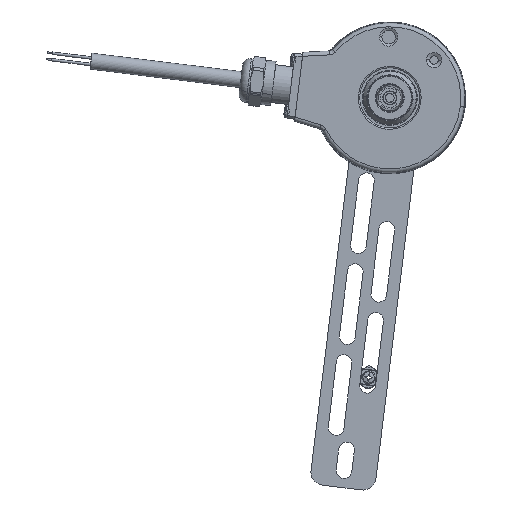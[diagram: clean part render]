
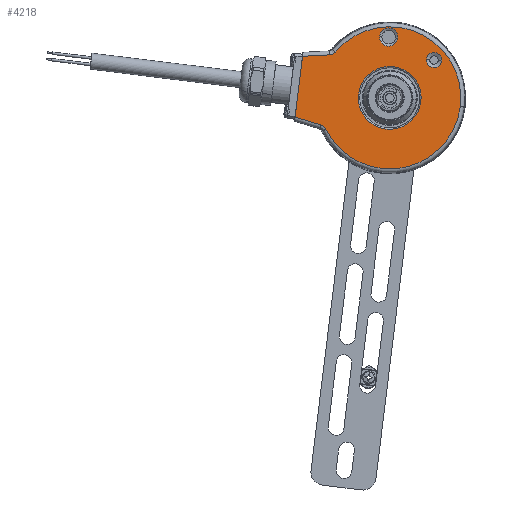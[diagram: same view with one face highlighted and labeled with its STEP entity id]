
A CAD part, left-side view. The second image highlights one B-rep face of the part: STEP entity #4218.
In plain terms, the highlighted planar face has unit normal (-1, 0, 0).
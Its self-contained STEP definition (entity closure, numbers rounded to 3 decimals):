
#4076 = VERTEX_POINT ( 'NONE', #8557 ) ;
#4080 = VERTEX_POINT ( 'NONE', #8546 ) ;
#4124 = EDGE_CURVE ( 'NONE', #4142, #8396, #8723, .T. ) ;
#4133 = EDGE_CURVE ( 'NONE', #8448, #8397, #8735, .T. ) ;
#4136 = EDGE_CURVE ( 'NONE', #4076, #4080, #8734, .T. ) ;
#4142 = VERTEX_POINT ( 'NONE', #8929 ) ;
#4144 = EDGE_CURVE ( 'NONE', #4142, #4080, #8927, .T. ) ;
#4146 = EDGE_LOOP ( 'NONE', ( #4147, #4148 ) ) ;
#4147 = ORIENTED_EDGE ( 'NONE', *, *, #8357, .T. ) ;
#4148 = ORIENTED_EDGE ( 'NONE', *, *, #4170, .T. ) ;
#4149 = EDGE_LOOP ( 'NONE', ( #4150, #4203 ) ) ;
#4150 = ORIENTED_EDGE ( 'NONE', *, *, #8404, .T. ) ;
#4170 = EDGE_CURVE ( 'NONE', #15737, #8358, #9220, .T. ) ;
#4175 = EDGE_CURVE ( 'NONE', #8402, #8405, #9249, .T. ) ;
#4203 = ORIENTED_EDGE ( 'NONE', *, *, #4175, .T. ) ;
#4204 = EDGE_LOOP ( 'NONE', ( #4205, #4206, #4207, #4209, #4210, #4211, #4212 ) ) ;
#4205 = ORIENTED_EDGE ( 'NONE', *, *, #4133, .F. ) ;
#4206 = ORIENTED_EDGE ( 'NONE', *, *, #8507, .T. ) ;
#4207 = ORIENTED_EDGE ( 'NONE', *, *, #4208, .F. ) ;
#4208 = EDGE_CURVE ( 'NONE', #4076, #8455, #9345, .T. ) ;
#4209 = ORIENTED_EDGE ( 'NONE', *, *, #4136, .T. ) ;
#4210 = ORIENTED_EDGE ( 'NONE', *, *, #4144, .F. ) ;
#4211 = ORIENTED_EDGE ( 'NONE', *, *, #4124, .T. ) ;
#4212 = ORIENTED_EDGE ( 'NONE', *, *, #8395, .T. ) ;
#4217 = EDGE_CURVE ( 'NONE', #8387, #8390, #9320, .T. ) ;
#4218 = ADVANCED_FACE ( 'NONE', ( #9373, #9372, #9371, #9370 ), #9355, .F. ) ;
#4219 = EDGE_LOOP ( 'NONE', ( #4220, #4221 ) ) ;
#4220 = ORIENTED_EDGE ( 'NONE', *, *, #8389, .T. ) ;
#4221 = ORIENTED_EDGE ( 'NONE', *, *, #4217, .T. ) ;
#8357 = EDGE_CURVE ( 'NONE', #8358, #15737, #14919, .T. ) ;
#8358 = VERTEX_POINT ( 'NONE', #14910 ) ;
#8387 = VERTEX_POINT ( 'NONE', #15014 ) ;
#8389 = EDGE_CURVE ( 'NONE', #8390, #8387, #15013, .T. ) ;
#8390 = VERTEX_POINT ( 'NONE', #15008 ) ;
#8395 = EDGE_CURVE ( 'NONE', #8396, #8397, #15007, .T. ) ;
#8396 = VERTEX_POINT ( 'NONE', #15067 ) ;
#8397 = VERTEX_POINT ( 'NONE', #15066 ) ;
#8402 = VERTEX_POINT ( 'NONE', #15055 ) ;
#8404 = EDGE_CURVE ( 'NONE', #8405, #8402, #15054, .T. ) ;
#8405 = VERTEX_POINT ( 'NONE', #15049 ) ;
#8448 = VERTEX_POINT ( 'NONE', #15187 ) ;
#8455 = VERTEX_POINT ( 'NONE', #15180 ) ;
#8507 = EDGE_CURVE ( 'NONE', #8448, #8455, #15401, .T. ) ;
#8546 = CARTESIAN_POINT ( 'NONE',  ( -19., 26.213, -10.418 ) ) ;
#8557 = CARTESIAN_POINT ( 'NONE',  ( -19., 36.168, -7.374 ) ) ;
#8714 = DIRECTION ( 'NONE',  ( 0., -0.993, -0.122 ) ) ;
#8715 = DIRECTION ( 'NONE',  ( -1., 0., 0. ) ) ;
#8716 = CARTESIAN_POINT ( 'NONE',  ( -19., 0., 0. ) ) ;
#8717 = AXIS2_PLACEMENT_3D ( 'NONE', #8716, #8715, #8714 ) ;
#8723 = CIRCLE ( 'NONE', #8717, 27.173 ) ;
#8729 = CARTESIAN_POINT ( 'NONE',  ( -19., 22.914, 16.45 ) ) ;
#8730 = DIRECTION ( 'NONE',  ( 0., -0.956, -0.292 ) ) ;
#8731 = VECTOR ( 'NONE', #8730, 1000. ) ;
#8732 = CARTESIAN_POINT ( 'NONE',  ( -19., 25.556, -10.618 ) ) ;
#8734 = LINE ( 'NONE', #8732, #8731 ) ;
#8735 = B_SPLINE_CURVE_WITH_KNOTS ( 'NONE', 3,
 ( #8729, #8895, #8894, #8893, #8892, #8891, #8890, #8889, #8888, #8887 ),
 .UNSPECIFIED., .F., .F.,
 ( 4, 2, 2, 2, 4 ),
 ( 0., 0.001, 0.001, 0.002, 0.002 ),
 .UNSPECIFIED. ) ;
#8887 = CARTESIAN_POINT ( 'NONE',  ( -19., 20.777, 17.512 ) ) ;
#8888 = CARTESIAN_POINT ( 'NONE',  ( -19., 20.91, 17.355 ) ) ;
#8889 = CARTESIAN_POINT ( 'NONE',  ( -19., 21.056, 17.213 ) ) ;
#8890 = CARTESIAN_POINT ( 'NONE',  ( -19., 21.376, 16.962 ) ) ;
#8891 = CARTESIAN_POINT ( 'NONE',  ( -19., 21.552, 16.851 ) ) ;
#8892 = CARTESIAN_POINT ( 'NONE',  ( -19., 21.917, 16.669 ) ) ;
#8893 = CARTESIAN_POINT ( 'NONE',  ( -19., 22.108, 16.597 ) ) ;
#8894 = CARTESIAN_POINT ( 'NONE',  ( -19., 22.503, 16.493 ) ) ;
#8895 = CARTESIAN_POINT ( 'NONE',  ( -19., 22.708, 16.461 ) ) ;
#8927 = B_SPLINE_CURVE_WITH_KNOTS ( 'NONE', 3,
 ( #9071, #9070, #9144, #9143, #9142, #9141, #9140, #9139, #9138, #9137 ),
 .UNSPECIFIED., .F., .F.,
 ( 4, 2, 2, 2, 4 ),
 ( 0., 0.001, 0.001, 0.002, 0.002 ),
 .UNSPECIFIED. ) ;
#8929 = CARTESIAN_POINT ( 'NONE',  ( -19., 24.396, -11.966 ) ) ;
#9070 = CARTESIAN_POINT ( 'NONE',  ( -19., 24.487, -11.781 ) ) ;
#9071 = CARTESIAN_POINT ( 'NONE',  ( -19., 24.396, -11.966 ) ) ;
#9137 = CARTESIAN_POINT ( 'NONE',  ( -19., 26.213, -10.418 ) ) ;
#9138 = CARTESIAN_POINT ( 'NONE',  ( -19., 26.016, -10.478 ) ) ;
#9139 = CARTESIAN_POINT ( 'NONE',  ( -19., 25.828, -10.557 ) ) ;
#9140 = CARTESIAN_POINT ( 'NONE',  ( -19., 25.471, -10.753 ) ) ;
#9141 = CARTESIAN_POINT ( 'NONE',  ( -19., 25.3, -10.87 ) ) ;
#9142 = CARTESIAN_POINT ( 'NONE',  ( -19., 24.989, -11.135 ) ) ;
#9143 = CARTESIAN_POINT ( 'NONE',  ( -19., 24.848, -11.282 ) ) ;
#9144 = CARTESIAN_POINT ( 'NONE',  ( -19., 24.597, -11.605 ) ) ;
#9211 = DIRECTION ( 'NONE',  ( 0., -0.993, -0.122 ) ) ;
#9212 = DIRECTION ( 'NONE',  ( 1., 0., 0. ) ) ;
#9213 = CARTESIAN_POINT ( 'NONE',  ( -19., 0.406, 23.246 ) ) ;
#9214 = AXIS2_PLACEMENT_3D ( 'NONE', #9213, #9212, #9211 ) ;
#9220 = CIRCLE ( 'NONE', #9214, 3.466 ) ;
#9240 = DIRECTION ( 'NONE',  ( 0., -0.993, -0.122 ) ) ;
#9241 = DIRECTION ( 'NONE',  ( 1., 0., 0. ) ) ;
#9242 = CARTESIAN_POINT ( 'NONE',  ( -19., 0., 0. ) ) ;
#9243 = AXIS2_PLACEMENT_3D ( 'NONE', #9242, #9241, #9240 ) ;
#9249 = CIRCLE ( 'NONE', #9243, 12. ) ;
#9320 = CIRCLE ( 'NONE', #9377, 2.899 ) ;
#9342 = DIRECTION ( 'NONE',  ( 0., -0.122, 0.993 ) ) ;
#9343 = VECTOR ( 'NONE', #9342, 1000. ) ;
#9344 = CARTESIAN_POINT ( 'NONE',  ( -19., 36.354, -8.886 ) ) ;
#9345 = LINE ( 'NONE', #9344, #9343 ) ;
#9352 = AXIS2_PLACEMENT_3D ( 'NONE', #9409, #9408, #9407 ) ;
#9355 = PLANE ( 'NONE',  #9352 ) ;
#9370 = FACE_OUTER_BOUND ( 'NONE', #4204, .T. ) ;
#9371 = FACE_BOUND ( 'NONE', #4149, .T. ) ;
#9372 = FACE_BOUND ( 'NONE', #4146, .T. ) ;
#9373 = FACE_BOUND ( 'NONE', #4219, .T. ) ;
#9374 = DIRECTION ( 'NONE',  ( 0., -0.993, -0.122 ) ) ;
#9375 = DIRECTION ( 'NONE',  ( 1., 0., 0. ) ) ;
#9376 = CARTESIAN_POINT ( 'NONE',  ( -19., -16.919, 14.45 ) ) ;
#9377 = AXIS2_PLACEMENT_3D ( 'NONE', #9376, #9375, #9374 ) ;
#9407 = DIRECTION ( 'NONE',  ( 0., -0.993, -0.122 ) ) ;
#9408 = DIRECTION ( 'NONE',  ( 1., 0., 0. ) ) ;
#9409 = CARTESIAN_POINT ( 'NONE',  ( -19., 0., 0. ) ) ;
#14910 = CARTESIAN_POINT ( 'NONE',  ( -19., 3.846, 23.669 ) ) ;
#14911 = DIRECTION ( 'NONE',  ( 0., -0.993, -0.122 ) ) ;
#14912 = DIRECTION ( 'NONE',  ( 1., 0., 0. ) ) ;
#14913 = CARTESIAN_POINT ( 'NONE',  ( -19., 0.406, 23.246 ) ) ;
#14914 = AXIS2_PLACEMENT_3D ( 'NONE', #14913, #14912, #14911 ) ;
#14919 = CIRCLE ( 'NONE', #14914, 3.466 ) ;
#15003 = DIRECTION ( 'NONE',  ( 0., -0.993, -0.122 ) ) ;
#15004 = DIRECTION ( 'NONE',  ( -1., 0., 0. ) ) ;
#15005 = CARTESIAN_POINT ( 'NONE',  ( -19., 0., 0. ) ) ;
#15006 = AXIS2_PLACEMENT_3D ( 'NONE', #15005, #15004, #15003 ) ;
#15007 = CIRCLE ( 'NONE', #15006, 27.173 ) ;
#15008 = CARTESIAN_POINT ( 'NONE',  ( -19., -14.042, 14.804 ) ) ;
#15009 = DIRECTION ( 'NONE',  ( 0., -0.993, -0.122 ) ) ;
#15010 = DIRECTION ( 'NONE',  ( 1., 0., 0. ) ) ;
#15011 = CARTESIAN_POINT ( 'NONE',  ( -19., -16.919, 14.45 ) ) ;
#15012 = AXIS2_PLACEMENT_3D ( 'NONE', #15011, #15010, #15009 ) ;
#15013 = CIRCLE ( 'NONE', #15012, 2.899 ) ;
#15014 = CARTESIAN_POINT ( 'NONE',  ( -19., -19.796, 14.097 ) ) ;
#15049 = CARTESIAN_POINT ( 'NONE',  ( -19., -11.911, -1.462 ) ) ;
#15050 = DIRECTION ( 'NONE',  ( 0., -0.993, -0.122 ) ) ;
#15051 = DIRECTION ( 'NONE',  ( 1., 0., 0. ) ) ;
#15052 = CARTESIAN_POINT ( 'NONE',  ( -19., 0., 0. ) ) ;
#15053 = AXIS2_PLACEMENT_3D ( 'NONE', #15052, #15051, #15050 ) ;
#15054 = CIRCLE ( 'NONE', #15053, 12. ) ;
#15055 = CARTESIAN_POINT ( 'NONE',  ( -19., 11.911, 1.462 ) ) ;
#15066 = CARTESIAN_POINT ( 'NONE',  ( -19., 20.777, 17.512 ) ) ;
#15067 = CARTESIAN_POINT ( 'NONE',  ( -19., -26.97, -3.312 ) ) ;
#15180 = CARTESIAN_POINT ( 'NONE',  ( -19., 33.31, 15.905 ) ) ;
#15187 = CARTESIAN_POINT ( 'NONE',  ( -19., 22.914, 16.45 ) ) ;
#15400 = CARTESIAN_POINT ( 'NONE',  ( -19., 33.046, 15.919 ) ) ;
#15401 = LINE ( 'NONE', #15400, #15453 ) ;
#15452 = DIRECTION ( 'NONE',  ( 0., 0.999, -0.052 ) ) ;
#15453 = VECTOR ( 'NONE', #15452, 1000. ) ;
#15559 = CARTESIAN_POINT ( 'NONE',  ( -19., -3.034, 22.824 ) ) ;
#15737 = VERTEX_POINT ( 'NONE', #15559 ) ;
